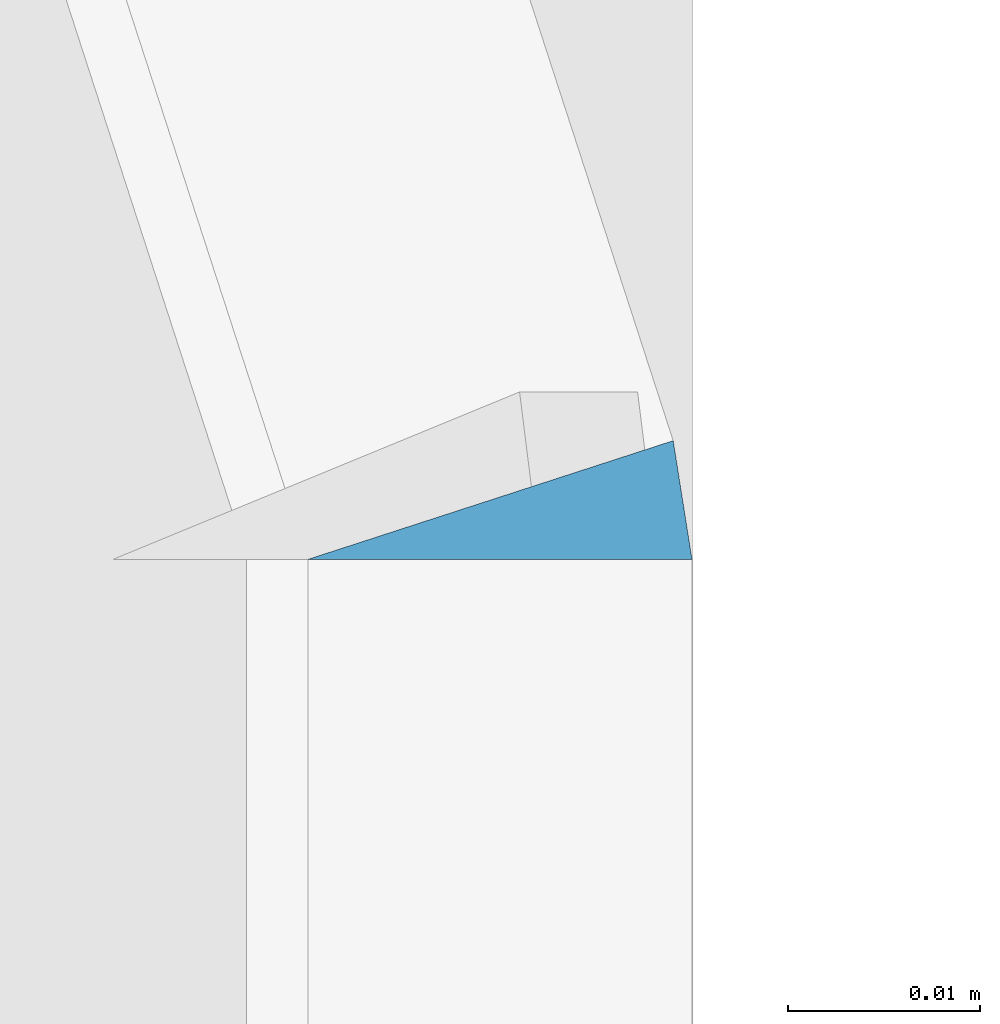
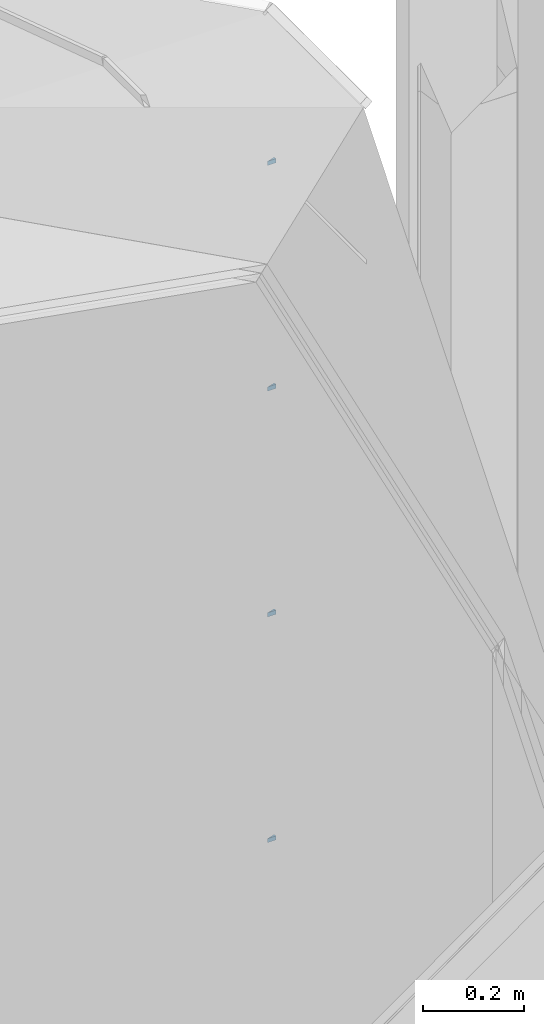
# One storey, part 367 of 583: 4 slabs.
"""IFC2X3 building model written with IfcOpenShell, lengths in metres."""

from ifc_helpers import new_model, entity, si_unit, converted_unit, derived_unit, money_unit, direction, frame, origin_with_axes, place, context, subcontext, project, spatial, faceted_brep, material, type_object, element, save


model = new_model("IFC2X3")

# Units and contexts
model_context = context("Model", 3, precision=1e-05, world=origin_with_axes(), true_north=direction((0.0, 1.0)))
body_context = subcontext(model_context, "Body", "Model", "MODEL_VIEW", scale=1.0)
ifc_project = project(units=[si_unit("LENGTHUNIT", "METRE"), si_unit("AREAUNIT", "SQUARE_METRE"), si_unit("VOLUMEUNIT", "CUBIC_METRE"), si_unit("ABSORBEDDOSEUNIT", "GRAY"), si_unit("AMOUNTOFSUBSTANCEUNIT", "MOLE"), si_unit("DOSEEQUIVALENTUNIT", "SIEVERT"), si_unit("ELECTRICCAPACITANCEUNIT", "FARAD"), si_unit("ELECTRICCHARGEUNIT", "COULOMB"), si_unit("ELECTRICCONDUCTANCEUNIT", "SIEMENS"), si_unit("ELECTRICCURRENTUNIT", "AMPERE"), si_unit("ELECTRICRESISTANCEUNIT", "OHM"), si_unit("ELECTRICVOLTAGEUNIT", "VOLT"), si_unit("ENERGYUNIT", "JOULE"), si_unit("FORCEUNIT", "NEWTON"), si_unit("FREQUENCYUNIT", "HERTZ"), si_unit("ILLUMINANCEUNIT", "LUX"), si_unit("INDUCTANCEUNIT", "HENRY"), si_unit("LUMINOUSFLUXUNIT", "LUMEN"), si_unit("LUMINOUSINTENSITYUNIT", "CANDELA"), si_unit("MAGNETICFLUXDENSITYUNIT", "TESLA"), si_unit("MAGNETICFLUXUNIT", "WEBER"), si_unit("MASSUNIT", "GRAM"), converted_unit("PLANEANGLEUNIT", "degree", entity("IfcReal", 0.0174532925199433), si_unit("PLANEANGLEUNIT", "RADIAN"), dimensions=[0, 0, 0, 0, 0, 0, 0]), si_unit("POWERUNIT", "WATT"), si_unit("PRESSUREUNIT", "PASCAL"), si_unit("RADIOACTIVITYUNIT", "BECQUEREL"), si_unit("SOLIDANGLEUNIT", "STERADIAN"), si_unit("THERMODYNAMICTEMPERATUREUNIT", "KELVIN"), si_unit("TIMEUNIT", "SECOND"), derived_unit("ACCELERATIONUNIT", [(si_unit("LENGTHUNIT", "METRE"), 1), (si_unit("TIMEUNIT", "SECOND"), -2)]), derived_unit("ANGULARVELOCITYUNIT", [(converted_unit("PLANEANGLEUNIT", "degree", entity("IfcReal", 0.0174532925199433), si_unit("PLANEANGLEUNIT", "RADIAN"), dimensions=[0, 0, 0, 0, 0, 0, 0]), 1), (si_unit("TIMEUNIT", "SECOND"), -1)]), derived_unit("CURVATUREUNIT", [(converted_unit("PLANEANGLEUNIT", "degree", entity("IfcReal", 0.0174532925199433), si_unit("PLANEANGLEUNIT", "RADIAN"), dimensions=[0, 0, 0, 0, 0, 0, 0]), 1), (si_unit("LENGTHUNIT", "METRE"), -1)]), derived_unit("DYNAMICVISCOSITYUNIT", [(si_unit("PRESSUREUNIT", "PASCAL"), 1), (si_unit("TIMEUNIT", "SECOND"), 1)]), derived_unit("HEATFLUXDENSITYUNIT", [(si_unit("POWERUNIT", "WATT"), 1), (si_unit("LENGTHUNIT", "METRE"), -2)]), derived_unit("HEATINGVALUEUNIT", [(si_unit("ENERGYUNIT", "JOULE"), 1), (si_unit("MASSUNIT", "GRAM"), -1)]), derived_unit("INTEGERCOUNTRATEUNIT", [(si_unit("TIMEUNIT", "SECOND"), -1)]), derived_unit("IONCONCENTRATIONUNIT", [(si_unit("MASSUNIT", "GRAM"), 1), (si_unit("VOLUMEUNIT", "CUBIC_METRE"), -1)]), derived_unit("ISOTHERMALMOISTURECAPACITYUNIT", [(si_unit("VOLUMEUNIT", "CUBIC_METRE"), 1), (si_unit("MASSUNIT", "GRAM"), -1)]), derived_unit("KINEMATICVISCOSITYUNIT", [(si_unit("AREAUNIT", "SQUARE_METRE"), 1), (si_unit("TIMEUNIT", "SECOND"), -1)]), derived_unit("LINEARFORCEUNIT", [(si_unit("FORCEUNIT", "NEWTON"), 1), (si_unit("LENGTHUNIT", "METRE"), -1)]), derived_unit("LINEARMOMENTUNIT", [(si_unit("FORCEUNIT", "NEWTON"), 1), (si_unit("LENGTHUNIT", "METRE"), -1)]), derived_unit("LINEARSTIFFNESSUNIT", [(si_unit("FORCEUNIT", "NEWTON"), 1), (si_unit("LENGTHUNIT", "METRE"), -1)]), derived_unit("LINEARVELOCITYUNIT", [(si_unit("LENGTHUNIT", "METRE"), 1), (si_unit("TIMEUNIT", "SECOND"), -1)]), derived_unit("LUMINOUSINTENSITYDISTRIBUTIONUNIT", [(si_unit("LUMINOUSINTENSITYUNIT", "CANDELA"), 1), (si_unit("LUMINOUSFLUXUNIT", "LUMEN"), -1)]), derived_unit("MASSDENSITYUNIT", [(si_unit("MASSUNIT", "GRAM"), 1), (si_unit("VOLUMEUNIT", "CUBIC_METRE"), -1)]), derived_unit("MASSFLOWRATEUNIT", [(si_unit("MASSUNIT", "GRAM"), 1), (si_unit("TIMEUNIT", "SECOND"), -1)]), derived_unit("MASSPERLENGTHUNIT", [(si_unit("MASSUNIT", "GRAM"), 1), (si_unit("LENGTHUNIT", "METRE"), -1)]), derived_unit("MODULUSOFELASTICITYUNIT", [(si_unit("FORCEUNIT", "NEWTON"), 1), (si_unit("AREAUNIT", "SQUARE_METRE"), -1)]), derived_unit("MODULUSOFLINEARSUBGRADEREACTIONUNIT", [(si_unit("FORCEUNIT", "NEWTON"), 1), (si_unit("LENGTHUNIT", "METRE"), -2)]), derived_unit("MODULUSOFROTATIONALSUBGRADEREACTIONUNIT", [(si_unit("FORCEUNIT", "NEWTON"), 1), (si_unit("LENGTHUNIT", "METRE"), 1)]), derived_unit("MODULUSOFSUBGRADEREACTIONUNIT", [(si_unit("FORCEUNIT", "NEWTON"), 1), (si_unit("VOLUMEUNIT", "CUBIC_METRE"), -1)]), derived_unit("MOISTUREDIFFUSIVITYUNIT", [(si_unit("VOLUMEUNIT", "CUBIC_METRE"), 1), (si_unit("TIMEUNIT", "SECOND"), -1)]), derived_unit("MOLECULARWEIGHTUNIT", [(si_unit("MASSUNIT", "GRAM"), 1), (si_unit("AMOUNTOFSUBSTANCEUNIT", "MOLE"), -1)]), derived_unit("PLANARFORCEUNIT", [(si_unit("FORCEUNIT", "NEWTON"), 1), (si_unit("LENGTHUNIT", "METRE"), -2)]), derived_unit("ROTATIONALFREQUENCYUNIT", [(si_unit("TIMEUNIT", "SECOND"), -1)]), derived_unit("ROTATIONALMASSUNIT", [(si_unit("MASSUNIT", "GRAM"), 1), (si_unit("LENGTHUNIT", "METRE"), 2)]), derived_unit("ROTATIONALSTIFFNESSUNIT", [(si_unit("FORCEUNIT", "NEWTON"), 1), (si_unit("LENGTHUNIT", "METRE"), 1), (converted_unit("PLANEANGLEUNIT", "degree", entity("IfcReal", 0.0174532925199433), si_unit("PLANEANGLEUNIT", "RADIAN"), dimensions=[0, 0, 0, 0, 0, 0, 0]), -1)]), derived_unit("SECTIONAREAINTEGRALUNIT", [(si_unit("LENGTHUNIT", "METRE"), 5)]), derived_unit("SECTIONMODULUSUNIT", [(si_unit("LENGTHUNIT", "METRE"), 3)]), derived_unit("SHEARMODULUSUNIT", [(si_unit("FORCEUNIT", "NEWTON"), 1), (si_unit("AREAUNIT", "SQUARE_METRE"), -1)]), derived_unit("SOUNDPOWERUNIT", [(si_unit("ENERGYUNIT", "JOULE"), 1), (si_unit("TIMEUNIT", "SECOND"), -1)]), derived_unit("SPECIFICHEATCAPACITYUNIT", [(si_unit("FORCEUNIT", "NEWTON"), 1), (si_unit("MASSUNIT", "GRAM"), -1), (si_unit("THERMODYNAMICTEMPERATUREUNIT", "KELVIN"), -1)]), derived_unit("TEMPERATUREGRADIENTUNIT", [(si_unit("THERMODYNAMICTEMPERATUREUNIT", "KELVIN"), 1), (si_unit("LENGTHUNIT", "METRE"), -1)]), derived_unit("THERMALADMITTANCEUNIT", [(si_unit("POWERUNIT", "WATT"), 1), (si_unit("AREAUNIT", "SQUARE_METRE"), -1), (si_unit("THERMODYNAMICTEMPERATUREUNIT", "KELVIN"), -1)]), derived_unit("THERMALCONDUCTANCEUNIT", [(si_unit("POWERUNIT", "WATT"), 1), (si_unit("LENGTHUNIT", "METRE"), -1), (si_unit("THERMODYNAMICTEMPERATUREUNIT", "KELVIN"), -1)]), derived_unit("THERMALEXPANSIONCOEFFICIENTUNIT", [(si_unit("THERMODYNAMICTEMPERATUREUNIT", "KELVIN"), -1)]), derived_unit("THERMALRESISTANCEUNIT", [(si_unit("AREAUNIT", "SQUARE_METRE"), 1), (si_unit("POWERUNIT", "WATT"), -1)]), derived_unit("THERMALTRANSMITTANCEUNIT", [(si_unit("POWERUNIT", "WATT"), 1), (si_unit("AREAUNIT", "SQUARE_METRE"), -1), (si_unit("THERMODYNAMICTEMPERATUREUNIT", "KELVIN"), -1)]), derived_unit("TORQUEUNIT", [(si_unit("FORCEUNIT", "NEWTON"), 1), (si_unit("LENGTHUNIT", "METRE"), 1)]), derived_unit("VAPORPERMEABILITYUNIT", [(si_unit("MASSUNIT", "GRAM"), 1), (si_unit("TIMEUNIT", "SECOND"), -1)]), derived_unit("VOLUMETRICFLOWRATEUNIT", [(si_unit("VOLUMEUNIT", "CUBIC_METRE"), 1), (si_unit("TIMEUNIT", "SECOND"), -1)]), derived_unit("WARPINGCONSTANTUNIT", [(si_unit("LENGTHUNIT", "METRE"), 6)]), derived_unit("WARPINGMOMENTUNIT", [(si_unit("FORCEUNIT", "NEWTON"), 1), (si_unit("LENGTHUNIT", "METRE"), 2)]), money_unit("GBP")], contexts=[model_context])

# Site, building, storey
site_placement = place(None, origin_with_axes())
site = spatial("IfcSite", under=ifc_project, at=site_placement, Name="Site", CompositionType="ELEMENT")
building_placement = place(site_placement, origin_with_axes())
building = spatial("IfcBuilding", under=site, at=building_placement, Name="Building01", CompositionType="ELEMENT")
storey_placement = place(building_placement, frame((0.0, 0.0, 20.78), z_axis=(0.0, 0.0, 1.0), x_axis=(1.0, 0.0, 0.0)))
storey = spatial("IfcBuildingStorey", under=building, at=storey_placement, Name="RL", CompositionType="ELEMENT", Elevation=20.78)

# Slabs
ifc_material = material(Name="A_BSUK_Roofs")
slab_type = type_object("IfcSlabType", Name="A-FloorsSlabs A_BSUK_Slabs", PredefinedType="FLOOR")
for number, where, z_axis, x_axis, name in (
    (1, (14.399021, 16.280608, 3.665024), (0.0, 1.0, 0.0), (0.0, 0.0, -1.0), "A-FloorsSlabs A_BSUK_Slabs"),
    (2, (14.399021, 16.280608, 4.212524), (0.0, 1.0, 0.0), (0.0, 0.0, -1.0), "A-FloorsSlabs A_BSUK_Slabs"),
    (3, (14.399021, 16.280608, 4.760024), (0.0, 1.0, 0.0), (0.0, 0.0, -1.0), "A-FloorsSlabs A_BSUK_Slabs"),
    (4, (14.399021, 16.280608, 5.307524), (0.0, 1.0, 0.0), (0.0, 0.0, -1.0), "A-FloorsSlabs A_BSUK_Slabs"),
):
    element("IfcSlab", number, at=place(storey_placement, frame(where, z_axis=z_axis, x_axis=x_axis)), inside=storey, type_object=slab_type, material=ifc_material, Name=name, ObjectType="A-FloorsSlabs A_BSUK_Slabs", context=body_context, shape_type="Brep", body=[
        faceted_brep([(0.0, 0.0, 0.0), (-0.01, 0.0, 0.0), (-0.01, -0.000979, -0.00618), (0.0, -0.000979, -0.00618), (-0.01, 0.019021, -0.00618), (0.0, 0.019021, -0.00618)], [[[0, 1, 2, 3]], [[3, 2, 4, 5]], [[5, 4, 1, 0]], [[1, 4, 2]], [[3, 5, 0]]]),
    ])

save(model, "model.ifc")
